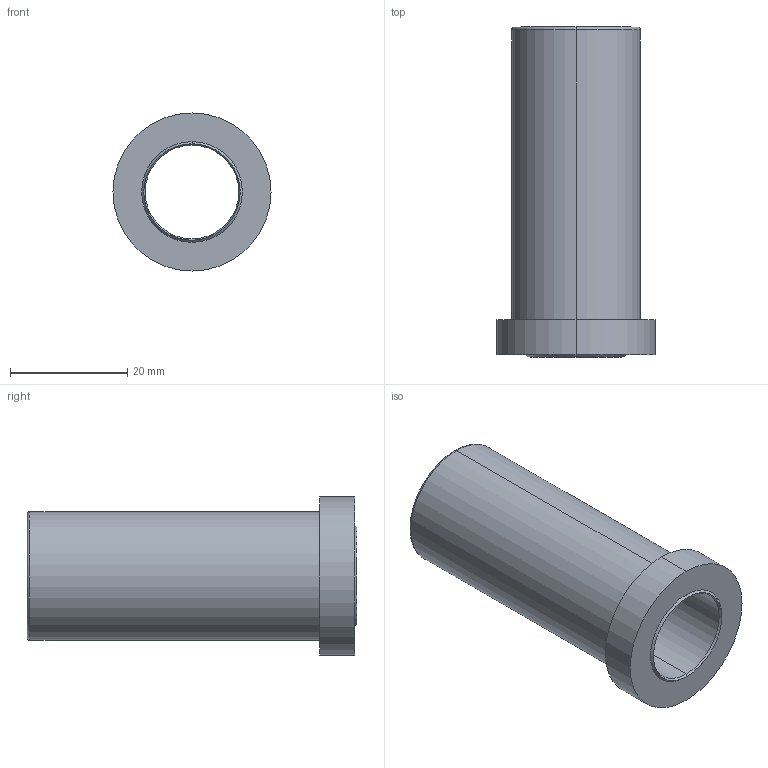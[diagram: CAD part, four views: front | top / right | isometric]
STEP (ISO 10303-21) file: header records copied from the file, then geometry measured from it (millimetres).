
FILE_DESCRIPTION (( 'STEP AP214' ), '1' );
FILE_NAME ('BR11W 16 x 56.STEP', '2020-07-16T14:10:28', ( 'August' ), ( '' ), 'SwSTEP 2.0', 'SolidWorks 2018', '' );
FILE_SCHEMA (( 'AUTOMOTIVE_DESIGN' ));
Length unit declared in the file: millimetre
Products named in the file (1): BR11W 16 x 56
Bounding box: 27 x 56.36 x 27 mm (x, y, z)
Volume: 11178 mm3; surface area: 7510.9 mm2
Topology: 1 solids, 1 shells, 17 faces, 34 edges, 20 vertices
Faces by surface type: cone 6, cylinder 6, plane 3, torus 2
Entity records: 484 total; most frequent: DIRECTION 92, CARTESIAN_POINT 72, ORIENTED_EDGE 68, AXIS2_PLACEMENT_3D 40, EDGE_CURVE 34, CIRCLE 22, VERTEX_POINT 20, EDGE_LOOP 20
